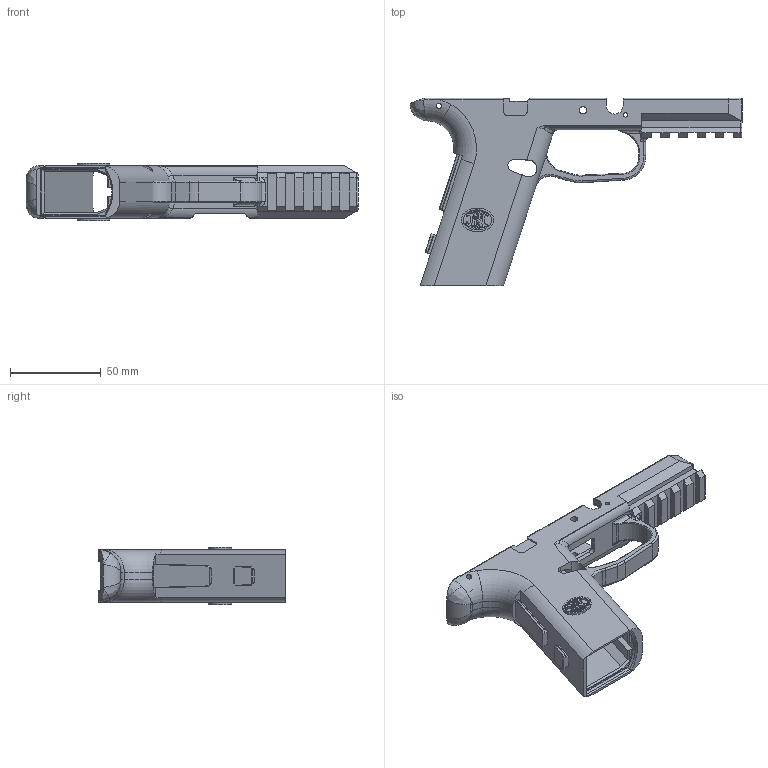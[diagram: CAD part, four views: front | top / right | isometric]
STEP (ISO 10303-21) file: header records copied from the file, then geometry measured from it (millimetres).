
FILE_DESCRIPTION(/* description */ (''),/* implementation_level */ '2;1');
FILE_NAME(/* name */ 'C:/Users/Bob/Desktop/FNS-940_Texture_0 v1.step',/* time_stamp */ '2021-06-04T20:36:05-07:00',/* author */ (''),/* organization */ (''),/* preprocessor_version */ 'ST-DEVELOPER v18.1',/* originating_system */ 'Autodesk Translation Framework v10.9.0.1377',/* authorisation */ '');
FILE_SCHEMA (('AUTOMOTIVE_DESIGN { 1 0 10303 214 3 1 1 }'));
Length unit declared in the file: inch
Products named in the file (5): FNS-940_Texture_0; Main Frame; Compact Size Grip; Standard Size Grip; Standard Size Grip (Stopgap)
Assembly tree (4 placements, depth 2):
  FNS-940_Texture_0
    Main Frame
    Compact Size Grip
    Standard Size Grip
    Standard Size Grip (Stopgap)
Bounding box: 183.1 x 103.6 x 31.54 mm (x, y, z)
Volume: 79824 mm3; surface area: 46466.4 mm2
Topology: 1 solids, 1 shells, 478 faces, 1295 edges, 824 vertices
Faces by surface type: plane 297, cylinder 110, bspline 38, torus 27, cone 6
Full cylindrical faces by diameter (mm): 0.612 x2, 2.5 x2, 3 x2, 4.1 x2
Entity records: 28478 total; most frequent: CARTESIAN_POINT 16418, ORIENTED_EDGE 2586, DIRECTION 2367, EDGE_CURVE 1293, LINE 893, VECTOR 893, VERTEX_POINT 824, AXIS2_PLACEMENT_3D 737
